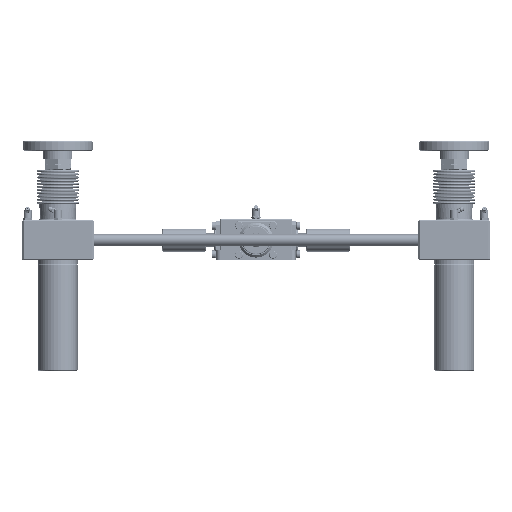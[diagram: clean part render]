
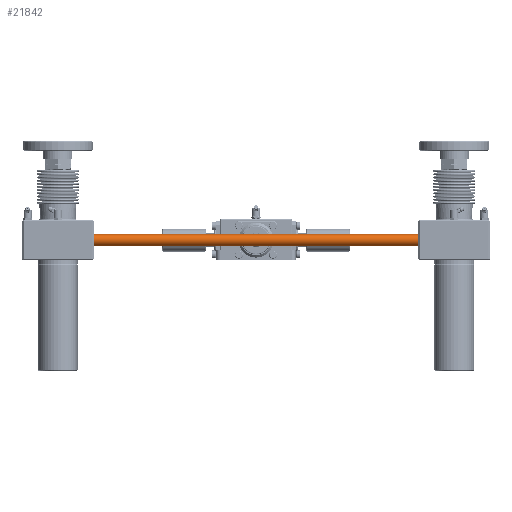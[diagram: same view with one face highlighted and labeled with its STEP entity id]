
A CAD part, left-side view. The second image highlights one B-rep face of the part: STEP entity #21842.
In plain terms, the highlighted cylindrical face has radius 7.5 mm (diameter 15 mm), a full revolution.
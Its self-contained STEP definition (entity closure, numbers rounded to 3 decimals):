
#21842=ADVANCED_FACE('',(#44391,#44392),#44393,.T.);
#44391=FACE_OUTER_BOUND('',#79841,.T.);
#44392=FACE_OUTER_BOUND('',#79842,.T.);
#44393=CYLINDRICAL_SURFACE('',#79843,7.5);
#79841=EDGE_LOOP('',(#164888));
#79842=EDGE_LOOP('',(#164889));
#79843=AXIS2_PLACEMENT_3D('',#164890,#164891,#164892);
#164888=ORIENTED_EDGE('',*,*,#208715,.T.);
#164889=ORIENTED_EDGE('',*,*,#208712,.T.);
#164890=CARTESIAN_POINT('',(0.0,0.0,532.0));
#164891=DIRECTION('',(0.0,0.0,-1.0));
#164892=DIRECTION('',(-1.0,0.0,0.0));
#208712=EDGE_CURVE('',#262686,#262686,#262687,.F.);
#208715=EDGE_CURVE('',#262692,#262692,#262693,.T.);
#262686=VERTEX_POINT('',#368971);
#262687=CIRCLE('',#368972,7.5);
#262692=VERTEX_POINT('',#368977);
#262693=CIRCLE('',#368978,7.5);
#368971=CARTESIAN_POINT('',(7.5,0.0,531.5));
#368972=AXIS2_PLACEMENT_3D('',#416023,#416024,#416025);
#368977=CARTESIAN_POINT('',(7.5,0.0,0.5));
#368978=AXIS2_PLACEMENT_3D('',#416032,#416033,#416034);
#416023=CARTESIAN_POINT('',(0.0,0.0,531.5));
#416024=DIRECTION('',(0.0,0.0,1.0));
#416025=DIRECTION('',(1.0,0.0,0.0));
#416032=CARTESIAN_POINT('',(0.0,0.0,0.5));
#416033=DIRECTION('',(0.0,0.0,1.0));
#416034=DIRECTION('',(1.0,0.0,0.0));
